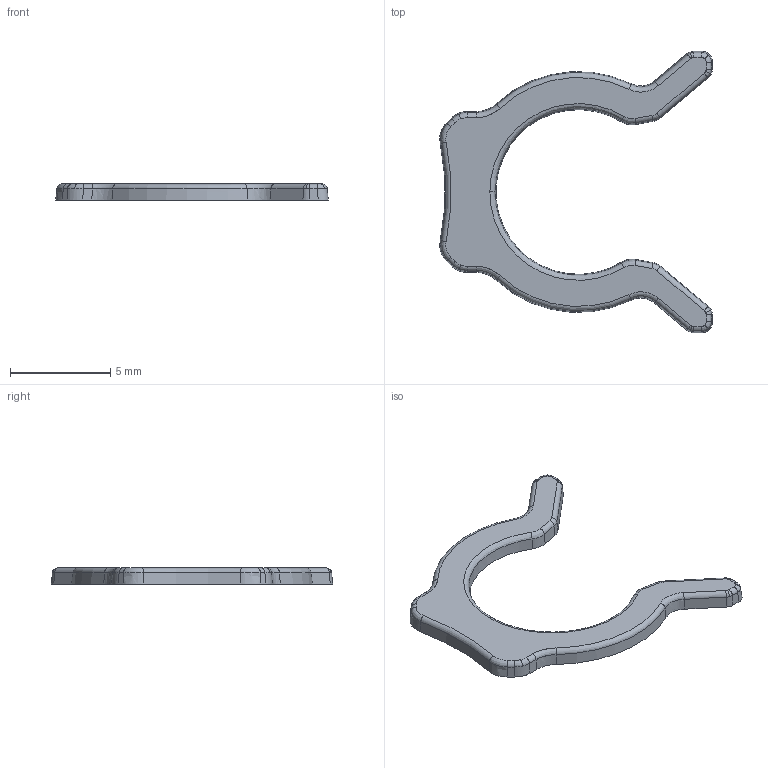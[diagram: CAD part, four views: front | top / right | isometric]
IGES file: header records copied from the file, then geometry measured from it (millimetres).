
Start section: SolidWorks IGES file using analytic representation for surfaces
Global section: file name: K:\Disegni Esecutivi\SERIE 50000\50980\50980_igs\509800032X4ROA.IGS; native system: SolidWorks 2012; preprocessor: SolidWorks 2012; author: cad05; date: 130520.075854; units: millimetre
Bounding box: 13.57 x 14 x 0.8 mm (x, y, z)
Surface area: 172.9 mm2 (no closed solid volume)
Topology: 0 solids, 0 shells, 83 faces, 498 edges, 498 vertices
Faces by surface type: bspline 44, revolution 39
